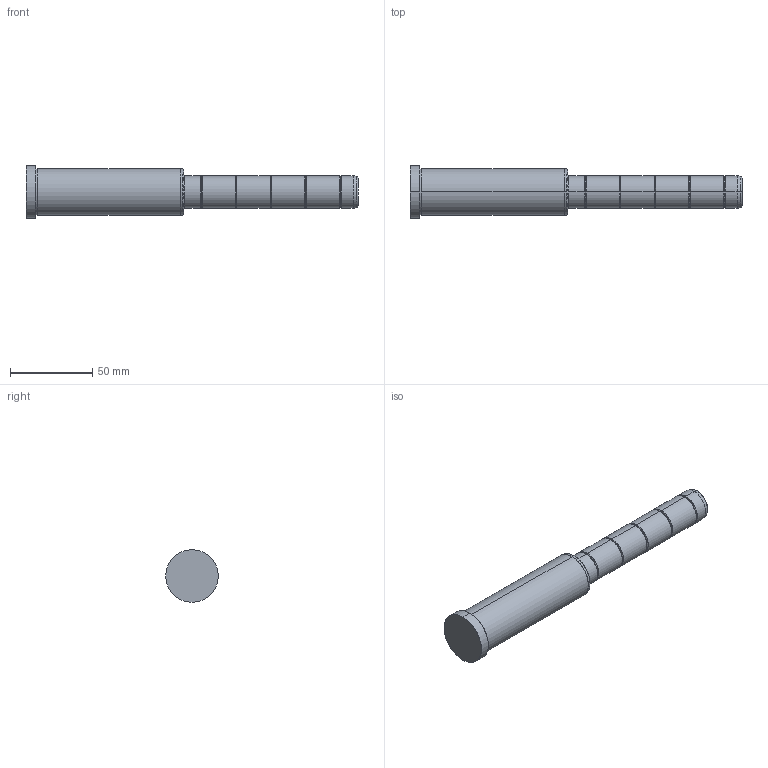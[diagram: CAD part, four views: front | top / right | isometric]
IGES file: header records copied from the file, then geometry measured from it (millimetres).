
Start section: SolidWorks IGES file using analytic representation for surfaces
Global section: file name: C:\Documents and Settings\kalite-mail\Desktop\IGS\D02\20\D02 - 20x96x106.IGS; native system: SolidWorks 2008; preprocessor: SolidWorks 2008; author: kalite-mail; date: 080616.165842; units: millimetre
Bounding box: 202 x 32 x 32 mm (x, y, z)
Surface area: 16857.1 mm2 (no closed solid volume)
Topology: 0 solids, 0 shells, 54 faces, 736 edges, 736 vertices
Faces by surface type: bspline 30, revolution 24
